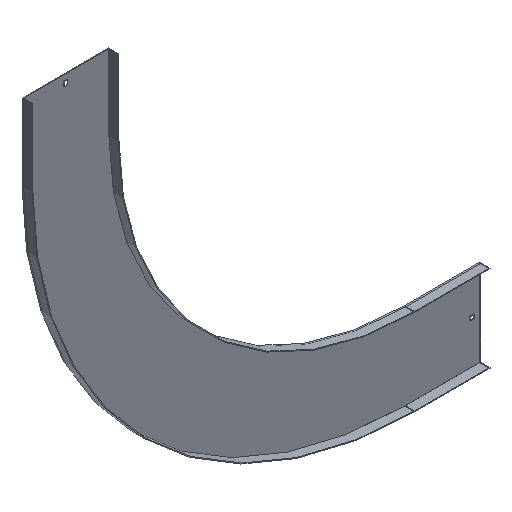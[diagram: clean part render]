
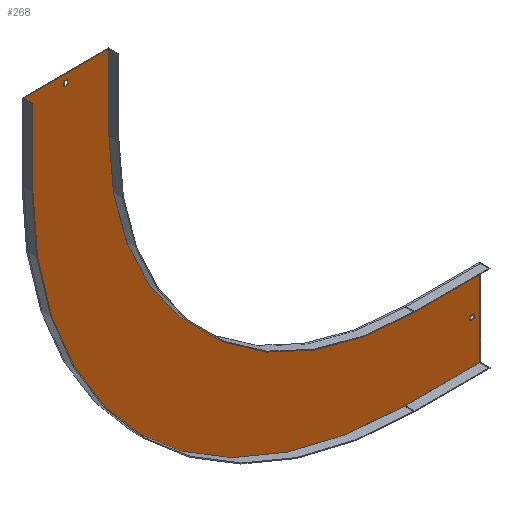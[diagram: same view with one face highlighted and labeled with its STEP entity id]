
A CAD part, isometric view. The second image highlights one B-rep face of the part: STEP entity #268.
In plain terms, the highlighted planar face has unit normal (0, -1, 0).
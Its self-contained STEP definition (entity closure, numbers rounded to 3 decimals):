
#11 = EDGE_CURVE ( 'NONE', #801, #87, #665, .T. ) ;
#12 = CARTESIAN_POINT ( 'NONE',  ( 129., -1.5, -671.75 ) ) ;
#17 = VERTEX_POINT ( 'NONE', #805 ) ;
#19 = CARTESIAN_POINT ( 'NONE',  ( 0., -1.5, -590. ) ) ;
#23 = PLANE ( 'NONE',  #601 ) ;
#25 = CARTESIAN_POINT ( 'NONE',  ( 0., -1.5, 0. ) ) ;
#28 = CARTESIAN_POINT ( 'NONE',  ( 138., -1.5, 0. ) ) ;
#51 = LINE ( 'NONE', #719, #215 ) ;
#61 = ORIENTED_EDGE ( 'NONE', *, *, #162, .F. ) ;
#63 = CARTESIAN_POINT ( 'NONE',  ( 138., -1.5, -678.25 ) ) ;
#66 = DIRECTION ( 'NONE',  ( 1., 0., 0. ) ) ;
#68 = VECTOR ( 'NONE', #85, 1000. ) ;
#69 = CARTESIAN_POINT ( 'NONE',  ( -590., -1.5, 150. ) ) ;
#76 = VECTOR ( 'NONE', #645, 1000. ) ;
#78 = DIRECTION ( 'NONE',  ( 1., 0., 0. ) ) ;
#85 = DIRECTION ( 'NONE',  ( -1., 0., 0. ) ) ;
#86 = FACE_OUTER_BOUND ( 'NONE', #644, .T. ) ;
#87 = VERTEX_POINT ( 'NONE', #524 ) ;
#90 = EDGE_CURVE ( 'NONE', #637, #791, #661, .T. ) ;
#96 = CARTESIAN_POINT ( 'NONE',  ( 0., -1.5, -671.75 ) ) ;
#108 = EDGE_CURVE ( 'NONE', #87, #417, #596, .T. ) ;
#120 = CARTESIAN_POINT ( 'NONE',  ( 150., -1.5, -760. ) ) ;
#126 = VERTEX_POINT ( 'NONE', #472 ) ;
#128 = CARTESIAN_POINT ( 'NONE',  ( -760., -1.5, 0. ) ) ;
#129 = VERTEX_POINT ( 'NONE', #558 ) ;
#140 = VERTEX_POINT ( 'NONE', #693 ) ;
#143 = CARTESIAN_POINT ( 'NONE',  ( 0., -1.5, -678.25 ) ) ;
#156 = CARTESIAN_POINT ( 'NONE',  ( -678.25, -1.5, 138. ) ) ;
#157 = VECTOR ( 'NONE', #404, 1000. ) ;
#161 = VERTEX_POINT ( 'NONE', #223 ) ;
#162 = EDGE_CURVE ( 'NONE', #393, #129, #233, .T. ) ;
#164 = CARTESIAN_POINT ( 'NONE',  ( 150., -1.5, -760. ) ) ;
#169 = VERTEX_POINT ( 'NONE', #19 ) ;
#176 = VECTOR ( 'NONE', #531, 1000. ) ;
#182 = VERTEX_POINT ( 'NONE', #156 ) ;
#183 = EDGE_CURVE ( 'NONE', #161, #17, #627, .T. ) ;
#195 = LINE ( 'NONE', #128, #391 ) ;
#198 = EDGE_CURVE ( 'NONE', #129, #694, #281, .T. ) ;
#201 = DIRECTION ( 'NONE',  ( 1., 0., 0. ) ) ;
#208 = EDGE_CURVE ( 'NONE', #169, #637, #681, .T. ) ;
#212 = VECTOR ( 'NONE', #731, 1000. ) ;
#215 = VECTOR ( 'NONE', #772, 1000. ) ;
#218 = EDGE_LOOP ( 'NONE', ( #580, #546, #490, #355 ) ) ;
#223 = CARTESIAN_POINT ( 'NONE',  ( 0., -1.5, -760. ) ) ;
#224 = ORIENTED_EDGE ( 'NONE', *, *, #534, .F. ) ;
#233 = LINE ( 'NONE', #28, #157 ) ;
#249 = DIRECTION ( 'NONE',  ( 0., 0., -1. ) ) ;
#257 = LINE ( 'NONE', #143, #459 ) ;
#268 = ADVANCED_FACE ( 'NONE', ( #409, #86, #345 ), #23, .T. ) ;
#274 = VECTOR ( 'NONE', #201, 1000. ) ;
#281 = LINE ( 'NONE', #96, #343 ) ;
#283 = EDGE_LOOP ( 'NONE', ( #787, #61, #698, #424 ) ) ;
#284 = DIRECTION ( 'NONE',  ( 0., -1., 0. ) ) ;
#325 = CARTESIAN_POINT ( 'NONE',  ( -678.25, -1.5, 0. ) ) ;
#329 = DIRECTION ( 'NONE',  ( 0., 0., -1. ) ) ;
#336 = EDGE_CURVE ( 'NONE', #694, #410, #851, .T. ) ;
#343 = VECTOR ( 'NONE', #550, 1000. ) ;
#345 = FACE_BOUND ( 'NONE', #218, .T. ) ;
#355 = ORIENTED_EDGE ( 'NONE', *, *, #730, .T. ) ;
#382 = EDGE_CURVE ( 'NONE', #17, #801, #195, .T. ) ;
#391 = VECTOR ( 'NONE', #590, 1000. ) ;
#393 = VERTEX_POINT ( 'NONE', #63 ) ;
#399 = VECTOR ( 'NONE', #329, 1000. ) ;
#404 = DIRECTION ( 'NONE',  ( 0., 0., 1. ) ) ;
#409 = FACE_BOUND ( 'NONE', #283, .T. ) ;
#410 = VERTEX_POINT ( 'NONE', #738 ) ;
#412 = AXIS2_PLACEMENT_3D ( 'NONE', #493, #545, #816 ) ;
#416 = AXIS2_PLACEMENT_3D ( 'NONE', #25, #284, #481 ) ;
#417 = VERTEX_POINT ( 'NONE', #429 ) ;
#420 = CARTESIAN_POINT ( 'NONE',  ( -671.75, -1.5, 138. ) ) ;
#424 = ORIENTED_EDGE ( 'NONE', *, *, #336, .F. ) ;
#426 = DIRECTION ( 'NONE',  ( 1., 0., 0. ) ) ;
#429 = CARTESIAN_POINT ( 'NONE',  ( -590., -1.5, 0. ) ) ;
#442 = ORIENTED_EDGE ( 'NONE', *, *, #11, .F. ) ;
#445 = CIRCLE ( 'NONE', #416, 590. ) ;
#456 = CARTESIAN_POINT ( 'NONE',  ( 0., -1.5, 138. ) ) ;
#459 = VECTOR ( 'NONE', #78, 1000. ) ;
#469 = ORIENTED_EDGE ( 'NONE', *, *, #382, .F. ) ;
#472 = CARTESIAN_POINT ( 'NONE',  ( -678.25, -1.5, 129. ) ) ;
#481 = DIRECTION ( 'NONE',  ( 0., 0., -1. ) ) ;
#490 = ORIENTED_EDGE ( 'NONE', *, *, #835, .T. ) ;
#493 = CARTESIAN_POINT ( 'NONE',  ( 0., -1.5, 0. ) ) ;
#504 = CARTESIAN_POINT ( 'NONE',  ( 129., -1.5, 0. ) ) ;
#505 = CARTESIAN_POINT ( 'NONE',  ( 150., -1.5, -590. ) ) ;
#508 = ORIENTED_EDGE ( 'NONE', *, *, #108, .F. ) ;
#513 = ORIENTED_EDGE ( 'NONE', *, *, #208, .F. ) ;
#519 = ORIENTED_EDGE ( 'NONE', *, *, #604, .F. ) ;
#524 = CARTESIAN_POINT ( 'NONE',  ( -590., -1.5, 150. ) ) ;
#528 = VECTOR ( 'NONE', #66, 1000. ) ;
#531 = DIRECTION ( 'NONE',  ( 0., 0., 1. ) ) ;
#534 = EDGE_CURVE ( 'NONE', #417, #169, #445, .T. ) ;
#544 = LINE ( 'NONE', #815, #68 ) ;
#545 = DIRECTION ( 'NONE',  ( 0., 1., 0. ) ) ;
#546 = ORIENTED_EDGE ( 'NONE', *, *, #659, .T. ) ;
#550 = DIRECTION ( 'NONE',  ( -1., 0., 0. ) ) ;
#558 = CARTESIAN_POINT ( 'NONE',  ( 138., -1.5, -671.75 ) ) ;
#571 = LINE ( 'NONE', #120, #807 ) ;
#580 = ORIENTED_EDGE ( 'NONE', *, *, #691, .T. ) ;
#587 = VECTOR ( 'NONE', #426, 1000. ) ;
#590 = DIRECTION ( 'NONE',  ( 0., 0., 1. ) ) ;
#596 = LINE ( 'NONE', #69, #399 ) ;
#601 = AXIS2_PLACEMENT_3D ( 'NONE', #615, #688, #249 ) ;
#604 = EDGE_CURVE ( 'NONE', #791, #161, #571, .T. ) ;
#608 = ORIENTED_EDGE ( 'NONE', *, *, #90, .F. ) ;
#615 = CARTESIAN_POINT ( 'NONE',  ( 0., -1.5, 0. ) ) ;
#627 = CIRCLE ( 'NONE', #412, 760. ) ;
#637 = VERTEX_POINT ( 'NONE', #505 ) ;
#644 = EDGE_LOOP ( 'NONE', ( #442, #469, #743, #519, #608, #513, #224, #508 ) ) ;
#645 = DIRECTION ( 'NONE',  ( 0., 0., -1. ) ) ;
#657 = CARTESIAN_POINT ( 'NONE',  ( 150., -1.5, -588.5 ) ) ;
#659 = EDGE_CURVE ( 'NONE', #797, #140, #51, .T. ) ;
#660 = LINE ( 'NONE', #325, #176 ) ;
#661 = LINE ( 'NONE', #657, #212 ) ;
#665 = LINE ( 'NONE', #793, #274 ) ;
#668 = LINE ( 'NONE', #456, #528 ) ;
#681 = LINE ( 'NONE', #821, #587 ) ;
#688 = DIRECTION ( 'NONE',  ( 0., -1., 0. ) ) ;
#691 = EDGE_CURVE ( 'NONE', #182, #797, #668, .T. ) ;
#693 = CARTESIAN_POINT ( 'NONE',  ( -671.75, -1.5, 129. ) ) ;
#694 = VERTEX_POINT ( 'NONE', #12 ) ;
#698 = ORIENTED_EDGE ( 'NONE', *, *, #722, .F. ) ;
#719 = CARTESIAN_POINT ( 'NONE',  ( -671.75, -1.5, 0. ) ) ;
#722 = EDGE_CURVE ( 'NONE', #410, #393, #257, .T. ) ;
#730 = EDGE_CURVE ( 'NONE', #126, #182, #660, .T. ) ;
#731 = DIRECTION ( 'NONE',  ( 0., 0., -1. ) ) ;
#738 = CARTESIAN_POINT ( 'NONE',  ( 129., -1.5, -678.25 ) ) ;
#743 = ORIENTED_EDGE ( 'NONE', *, *, #183, .F. ) ;
#752 = CARTESIAN_POINT ( 'NONE',  ( -760., -1.5, 150. ) ) ;
#772 = DIRECTION ( 'NONE',  ( 0., 0., -1. ) ) ;
#787 = ORIENTED_EDGE ( 'NONE', *, *, #198, .F. ) ;
#791 = VERTEX_POINT ( 'NONE', #164 ) ;
#793 = CARTESIAN_POINT ( 'NONE',  ( -761.5, -1.5, 150. ) ) ;
#797 = VERTEX_POINT ( 'NONE', #420 ) ;
#801 = VERTEX_POINT ( 'NONE', #752 ) ;
#805 = CARTESIAN_POINT ( 'NONE',  ( -760., -1.5, 0. ) ) ;
#807 = VECTOR ( 'NONE', #844, 1000. ) ;
#815 = CARTESIAN_POINT ( 'NONE',  ( 0., -1.5, 129. ) ) ;
#816 = DIRECTION ( 'NONE',  ( 0., 0., -1. ) ) ;
#821 = CARTESIAN_POINT ( 'NONE',  ( 0., -1.5, -590. ) ) ;
#835 = EDGE_CURVE ( 'NONE', #140, #126, #544, .T. ) ;
#844 = DIRECTION ( 'NONE',  ( -1., 0., 0. ) ) ;
#851 = LINE ( 'NONE', #504, #76 ) ;
